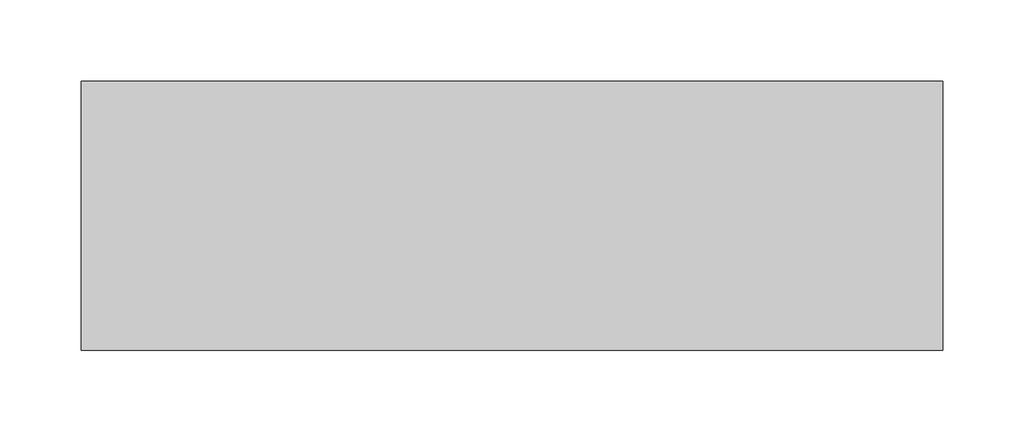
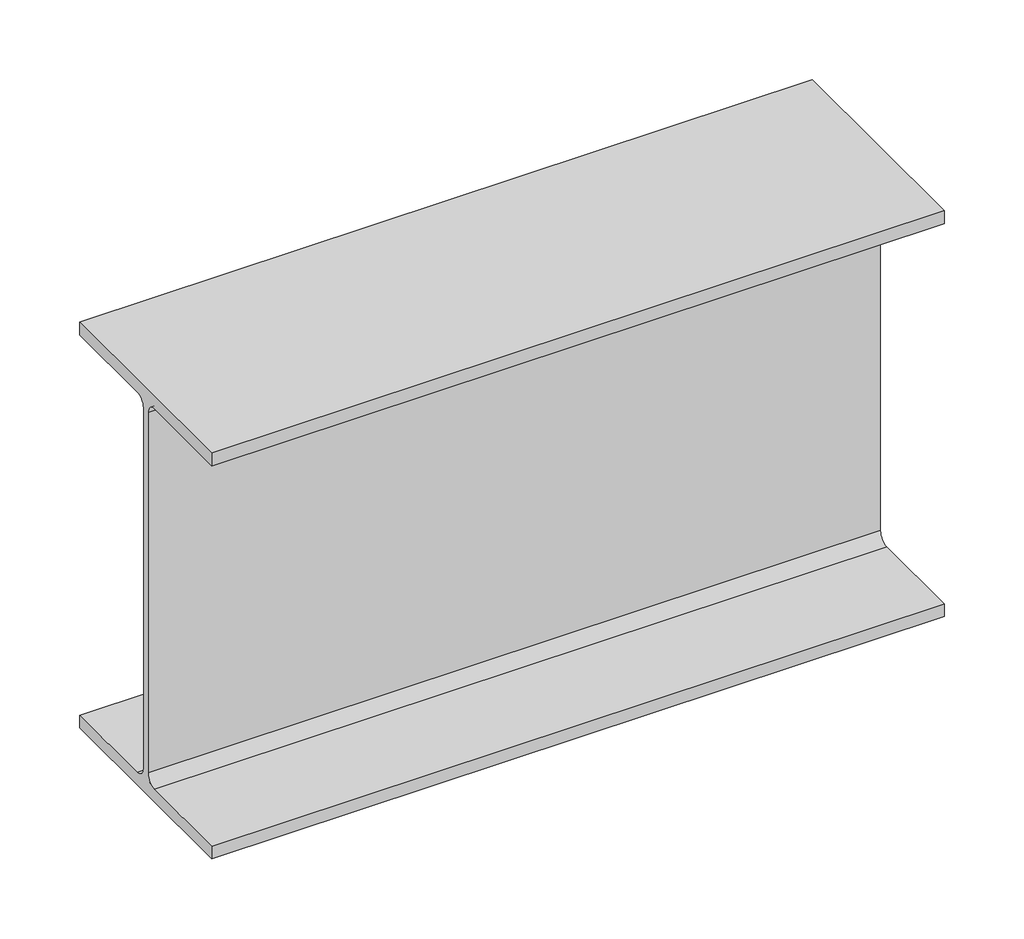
# One storey: 1 beam.
"""IFC4 building model written with IfcOpenShell, lengths in millimetres."""

from ifc_helpers import new_model, si_unit, origin, place, context, project, spatial, transform, mapped, element, save
from components import w310x38_7_043bb963

model = new_model("IFC4")

# Units and contexts
model_context = context("Model", 3, world=origin())
ifc_project = project(units=[si_unit("LENGTHUNIT", "METRE", prefix="MILLI")], contexts=[model_context])

# Site, building, storey
site = spatial("IfcSite", under=ifc_project)
building = spatial("IfcBuilding", under=site)
storey = spatial("IfcBuildingStorey", under=building, Name="Уровень 2", Elevation=4000.0)

# Beam
placement = place(None, origin())
w310x38_7_shape = w310x38_7_043bb963(model_context)
element("IfcBeam", 1, ObjectType="M_W Формы : W310X38.7", at=placement, inside=storey, context=model_context, shape_type="MappedRepresentation", body=[
    mapped(w310x38_7_shape, transform((-12704.906892, -58.617056, 3845.0), x_axis=(-1.0, 0.0, 0.0), y_axis=(0.0, -1.0, 0.0), z_axis=(0.0, 0.0, 1.0))),
])

save(model, "model.ifc")
